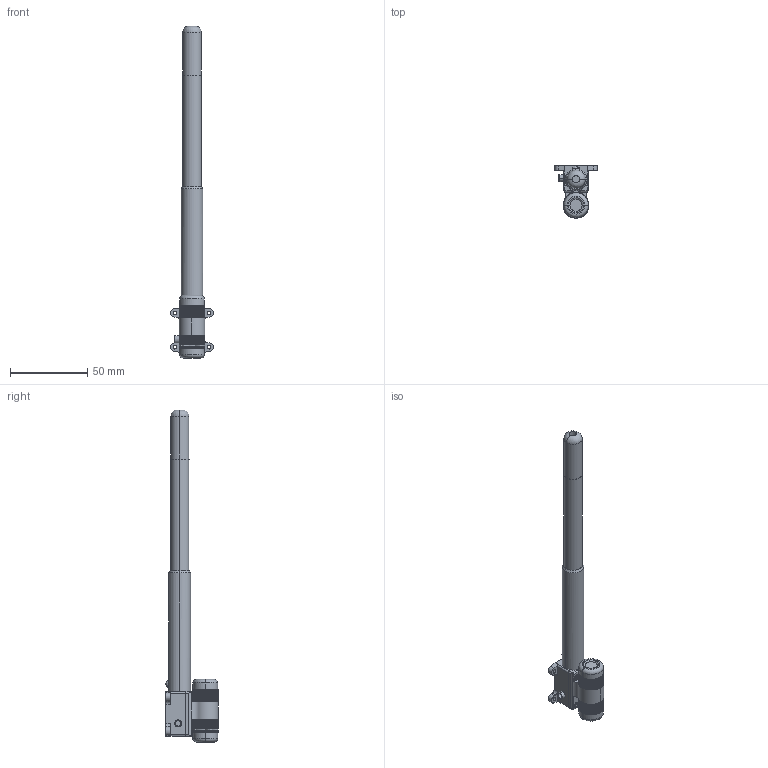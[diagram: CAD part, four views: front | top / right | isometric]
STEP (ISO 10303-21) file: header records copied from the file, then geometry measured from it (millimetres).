
FILE_DESCRIPTION (( 'STEP AP214' ), '1' );
FILE_NAME ('UV01.468339.100.345.000 WWW Pilot Tube Mini (PTM).STEP', '2017-03-06T11:07:18', ( '' ), ( '' ), 'SwSTEP 2.0', 'SolidWorks 2017', '' );
FILE_SCHEMA (( 'AUTOMOTIVE_DESIGN' ));
Length unit declared in the file: millimetre
Products named in the file (1): UV01.468339.100.345.000 WWW Pilot Tube Mini (PTM)
Bounding box: 27.5 x 33.8 x 214.3 mm (x, y, z)
Volume: 40056.6 mm3; surface area: 13169.3 mm2
Topology: 1 solids, 1 shells, 1004 faces, 2405 edges, 1414 vertices
Faces by surface type: plane 739, cylinder 230, torus 23, cone 10, bspline 2
Entity records: 39711 total; most frequent: CARTESIAN_POINT 5234, DIRECTION 5201, ORIENTED_EDGE 4794, EDGE_CURVE 2397, AXIS2_PLACEMENT_3D 1861, LINE 1479, VECTOR 1479, VERTEX_POINT 1414
